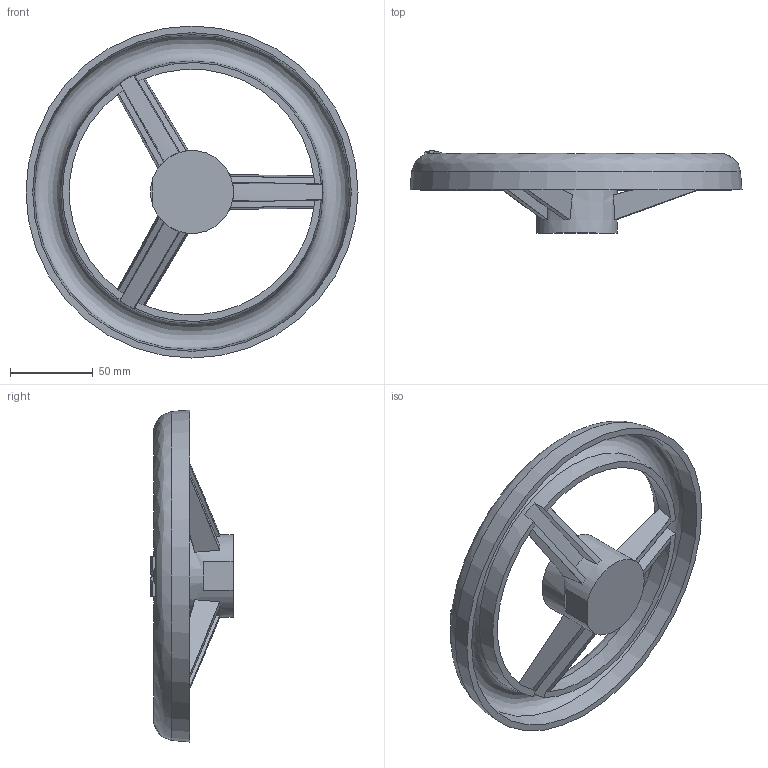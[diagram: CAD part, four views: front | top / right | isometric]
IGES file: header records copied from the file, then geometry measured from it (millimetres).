
Start section: SolidWorks IGES file using analytic representation for surfaces
Global section: file name: \\avksan2\techshare\PBM outline export from Enovia\O_08_66_DN100_AA0.igs; native system: SolidWorks 2012; preprocessor: SolidWorks 2012; author: pbm; date: 180717.124758; units: millimetre
Bounding box: 200 x 49.5 x 200 mm (x, y, z)
Surface area: 82203.3 mm2 (no closed solid volume)
Topology: 0 solids, 0 shells, 138 faces, 1088 edges, 1079 vertices
Faces by surface type: bspline 102, revolution 36
